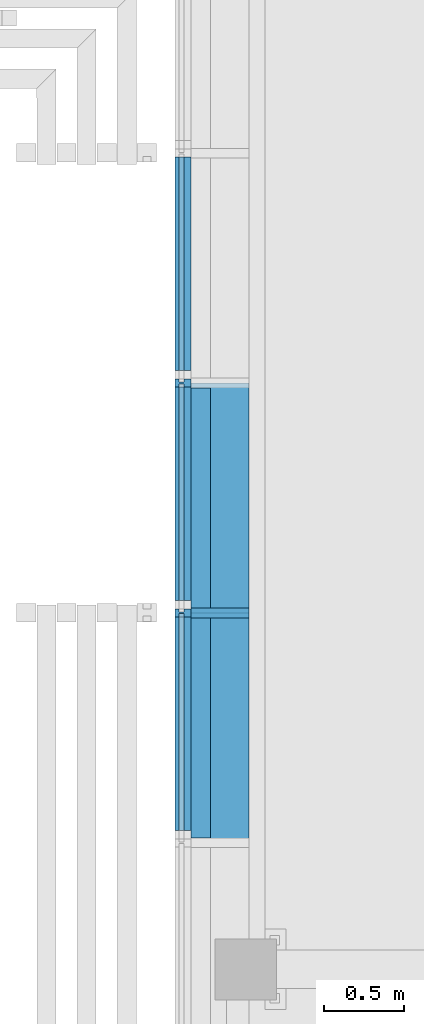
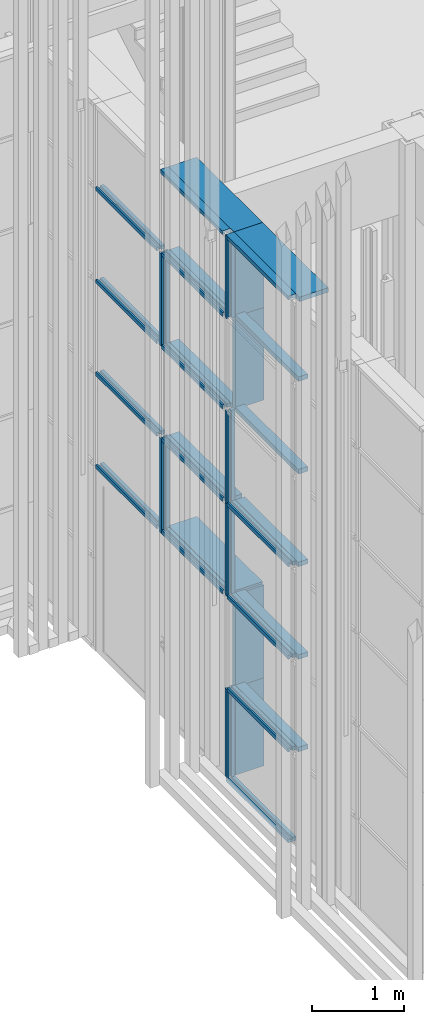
# One storey, part 20 of 260: 35 members, 2 elements without a shape of their own.
"""IFC2X3 building model written with IfcOpenShell, lengths in millimetres."""

from ifc_helpers import new_model, entity, si_unit, converted_unit, derived_unit, money_unit, direction, frame, origin_with_axes, place, context, subcontext, project, spatial, faceted_brep, source, transform, mapped, material, type_object, element, aggregate, save


model = new_model("IFC2X3")

# Units and contexts
model_context = context("Model", 3, precision=0.01, world=origin_with_axes(), true_north=direction((0.0, 1.0)))
body_context = subcontext(model_context, "Body", "Model", "MODEL_VIEW")
ifc_project = project(units=[si_unit("LENGTHUNIT", "METRE", prefix="MILLI"), si_unit("AREAUNIT", "SQUARE_METRE"), si_unit("VOLUMEUNIT", "CUBIC_METRE"), converted_unit("PLANEANGLEUNIT", "DEGREE", entity("IfcPlaneAngleMeasure", 0.0174532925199), si_unit("PLANEANGLEUNIT", "RADIAN"), dimensions=[0, 0, 0, 0, 0, 0, 0]), money_unit("EUR"), converted_unit("TIMEUNIT", "Year", entity("IfcTimeMeasure", 31556926.0), si_unit("TIMEUNIT", "SECOND"), dimensions=[0, 0, 1, 0, 0, 0, 0]), si_unit("MASSUNIT", "GRAM", prefix="KILO"), si_unit("THERMODYNAMICTEMPERATUREUNIT", "DEGREE_CELSIUS"), si_unit("LUMINOUSINTENSITYUNIT", "LUMEN"), si_unit("ENERGYUNIT", "JOULE", prefix="MEGA"), derived_unit("THERMALCONDUCTANCEUNIT", [(si_unit("POWERUNIT", "WATT"), 1), (si_unit("LENGTHUNIT", "METRE"), -1), (si_unit("THERMODYNAMICTEMPERATUREUNIT", "KELVIN"), -1)]), derived_unit("SPECIFICHEATCAPACITYUNIT", [(si_unit("ENERGYUNIT", "JOULE"), 1), (si_unit("MASSUNIT", "GRAM", prefix="KILO"), -1), (si_unit("THERMODYNAMICTEMPERATUREUNIT", "KELVIN"), -1)]), derived_unit("MASSDENSITYUNIT", [(si_unit("MASSUNIT", "GRAM", prefix="KILO"), 1), (si_unit("VOLUMEUNIT", "CUBIC_METRE"), -1)])], contexts=[model_context])

# Site, building, storey
site_placement = place(None, origin_with_axes())
site = spatial("IfcSite", under=ifc_project, at=site_placement, Name="Kolde pst 67a", CompositionType="ELEMENT")
building_placement = place(site_placement, origin_with_axes())
building = spatial("IfcBuilding", under=site, at=building_placement, Name="Riigigümnaasium", CompositionType="ELEMENT")
storey_placement = place(building_placement, origin_with_axes())
storey = spatial("IfcBuildingStorey", under=building, at=storey_placement, Name="1. korrus", CompositionType="ELEMENT", Elevation=0.0)

# Curtain wall, members
curtain_wall_type = type_object("IfcCurtainWallType", Name="Curtain Wall Type", PredefinedType="NOTDEFINED")
curtain_wall_1_placement = place(storey_placement, frame((47829.9854655, 8727.77020058, -0.000749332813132), z_axis=(0.0, 0.0, 1.0), x_axis=(1.0, 0.0, 0.0)))
curtain_wall_1 = element("IfcCurtainWall", 1, at=curtain_wall_1_placement, inside=storey, type_object=curtain_wall_type, Name="KLAASFASSAAD")
ifc_material_1 = material(Name="_METALL - alumiinium")
member_type_1 = type_object("IfcMemberType", Name="Mullion Frame 50 x 100", PredefinedType="MEMBER")
shared_shape_1 = source(origin_with_axes(), body_context, "Body", "Brep", [
    faceted_brep([(5.0, -16.5, 1230.00046362), (5.0, 16.5, 1230.00046362), (25.0, 16.5, 1230.00046362), (25.0, 40.0, 1230.00046362), (-25.0, 40.0, 1230.00046362), (-25.0, 16.5, 1230.00046362), (-5.0, 16.5, 1230.00046362), (-5.0, -16.5, 1230.00046362), (-25.0, -16.5, 1230.00046362), (-25.0, -60.0, 1230.00046362), (25.0, -60.0, 1230.00046362), (25.0, -16.5, 1230.00046362), (5.0, -16.5, 50.0), (5.0, 16.5, 50.0), (25.0, 16.5, 50.0), (25.0, 40.0, 50.0), (-25.0, 40.0, 50.0), (-25.0, 16.5, 50.0), (-5.0, 16.5, 50.0), (-5.0, -16.5, 50.0), (-25.0, -16.5, 50.0), (-25.0, -60.0, 50.0), (25.0, -60.0, 50.0), (25.0, -16.5, 50.0)], [[[0, 1, 2, 3, 4, 5, 6, 7, 8, 9, 10, 11]], [[0, 12, 13, 1]], [[1, 13, 14, 2]], [[14, 15, 3, 2]], [[4, 3, 15, 16]], [[17, 5, 4, 16]], [[5, 17, 18, 6]], [[7, 6, 18, 19]], [[8, 7, 19, 20]], [[8, 20, 21, 9]], [[10, 9, 21, 22]], [[11, 10, 22, 23]], [[11, 23, 12, 0]], [[13, 12, 23, 22, 21, 20, 19, 18, 17, 16, 15, 14]]]),
])
member_1_placement = place(curtain_wall_1_placement, frame((-9.97197702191e-06, 10938.7910576, 0.0), z_axis=(0.0, 8.42879940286e-09, 1.0), x_axis=(9.11613907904e-10, -1.0, 8.42879940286e-09)))
member_1 = element("IfcMember", 2, at=member_1_placement, type_object=member_type_1, material=ifc_material_1, Name="RF RAAM VERT-954", ObjectType="MEMBER", context=body_context, shape_type="MappedRepresentation", body=[
    mapped(shared_shape_1, transform((0.0, 0.0, 0.0), x_axis=(-1.0, 0.0, 8.42879940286e-09), y_axis=(0.0, -1.0, 0.0), z_axis=(8.42879940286e-09, 0.0, 1.0))),
])
shared_shape_2 = source(origin_with_axes(), body_context, "Body", "Brep", [
    faceted_brep([(5.0, -16.5, 1230.0), (5.0, 16.5, 1230.0), (25.0, 16.5, 1230.0), (25.0, 40.0, 1230.0), (-25.0, 40.0, 1230.0), (-25.0, 16.5, 1230.0), (-5.0, 16.5, 1230.0), (-5.0, -16.5, 1230.0), (-25.0, -16.5, 1230.0), (-25.0, -60.0, 1230.0), (25.0, -60.0, 1230.0), (25.0, -16.5, 1230.0), (5.0, -16.5, 0.0), (5.0, 16.5, 0.0), (25.0, 16.5, 0.0), (25.0, 40.0, 0.0), (-25.0, 40.0, 0.0), (-25.0, 16.5, 0.0), (-5.0, 16.5, 0.0), (-5.0, -16.5, 0.0), (-25.0, -16.5, 0.0), (-25.0, -60.0, 0.0), (25.0, -60.0, 0.0), (25.0, -16.5, 0.0)], [[[0, 1, 2, 3, 4, 5, 6, 7, 8, 9, 10, 11]], [[0, 12, 13, 1]], [[1, 13, 14, 2]], [[14, 15, 3, 2]], [[3, 15, 16, 4]], [[17, 5, 4, 16]], [[5, 17, 18, 6]], [[7, 6, 18, 19]], [[8, 7, 19, 20]], [[8, 20, 21, 9]], [[9, 21, 22, 10]], [[11, 10, 22, 23]], [[11, 23, 12, 0]], [[13, 12, 23, 22, 21, 20, 19, 18, 17, 16, 15, 14]]]),
])
member_2_placement = place(curtain_wall_1_placement, frame((-1.12755955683e-05, 12368.7994636, 4920.00074933), z_axis=(0.0, 0.0, 1.0), x_axis=(9.1161639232e-10, -1.0, 0.0)))
member_2 = element("IfcMember", 3, at=member_2_placement, type_object=member_type_1, material=ifc_material_1, Name="RF RAAM VERT-874", ObjectType="MEMBER", context=body_context, shape_type="MappedRepresentation", body=[
    mapped(shared_shape_2, transform((0.0, 0.0, 0.0), x_axis=(-1.0, 0.0, 0.0), y_axis=(0.0, -1.0, 0.0), z_axis=(0.0, 0.0, 1.0))),
])
member_3_placement = place(curtain_wall_1_placement, frame((-9.97197702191e-06, 10938.791068, 2460.00074933), z_axis=(0.0, 0.0, 1.0), x_axis=(9.11613907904e-10, -1.0, 0.0)))
member_3 = element("IfcMember", 4, at=member_3_placement, type_object=member_type_1, material=ifc_material_1, Name="RF RAAM VERT-951", ObjectType="MEMBER", context=body_context, shape_type="MappedRepresentation", body=[
    mapped(shared_shape_2, transform((0.0, 0.0, 0.0), x_axis=(-1.0, 0.0, 0.0), y_axis=(0.0, -1.0, 0.0), z_axis=(0.0, 0.0, 1.0))),
])
member_4_placement = place(curtain_wall_1_placement, frame((-9.97197702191e-06, 10938.791068, 3690.00074933), z_axis=(0.0, 0.0, 1.0), x_axis=(9.11613907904e-10, -1.0, 0.0)))
member_4 = element("IfcMember", 5, at=member_4_placement, type_object=member_type_1, material=ifc_material_1, Name="RF RAAM VERT-952", ObjectType="MEMBER", context=body_context, shape_type="MappedRepresentation", body=[
    mapped(shared_shape_2, transform((0.0, 0.0, 0.0), x_axis=(-1.0, 0.0, 0.0), y_axis=(0.0, -1.0, 0.0), z_axis=(0.0, 0.0, 1.0))),
])
shared_shape_3 = source(origin_with_axes(), body_context, "Body", "Brep", [
    faceted_brep([(5.0, -16.5, 1230.0), (5.0, 16.5, 1230.0), (25.0, 16.5, 1230.0), (25.0, 40.0, 1230.0), (-25.0, 40.0, 1230.0), (-25.0, 16.5, 1230.0), (-5.0, 16.5, 1230.0), (-5.0, -16.5, 1230.0), (-25.0, -16.5, 1230.0), (-25.0, -60.0, 1230.0), (25.0, -60.0, 1230.0), (25.0, -16.5, 1230.0), (5.0, -16.5, -25.0), (5.0, 16.5, -25.0), (25.0, 16.5, -25.0), (25.0, 40.0, -25.0), (-25.0, 40.0, -25.0), (-25.0, 16.5, -25.0), (-5.0, 16.5, -25.0), (-5.0, -16.5, -25.0), (-25.0, -16.5, -25.0), (-25.0, -60.0, -25.0), (25.0, -60.0, -25.0), (25.0, -16.5, -25.0)], [[[0, 1, 2, 3, 4, 5, 6, 7, 8, 9, 10, 11]], [[0, 12, 13, 1]], [[1, 13, 14, 2]], [[14, 15, 3, 2]], [[3, 15, 16, 4]], [[17, 5, 4, 16]], [[5, 17, 18, 6]], [[7, 6, 18, 19]], [[8, 7, 19, 20]], [[8, 20, 21, 9]], [[9, 21, 22, 10]], [[11, 10, 22, 23]], [[11, 23, 12, 0]], [[13, 12, 23, 22, 21, 20, 19, 18, 17, 16, 15, 14]]]),
])
member_5_placement = place(curtain_wall_1_placement, frame((-1.12755955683e-05, 12368.7994636, 2460.00074933), z_axis=(0.0, 0.0, 1.0), x_axis=(9.1161639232e-10, -1.0, 0.0)))
member_5 = element("IfcMember", 6, at=member_5_placement, type_object=member_type_1, material=ifc_material_1, Name="RF RAAM VERT-947", ObjectType="MEMBER", context=body_context, shape_type="MappedRepresentation", body=[
    mapped(shared_shape_3, transform((0.0, 0.0, 0.0), x_axis=(-1.0, 0.0, 0.0), y_axis=(0.0, -1.0, 0.0), z_axis=(0.0, 0.0, 1.0))),
])
member_type_2 = type_object("IfcMemberType", Name="Transom Frame 50 x 100", PredefinedType="MEMBER")
shared_shape_4 = source(origin_with_axes(), body_context, "Body", "Brep", [
    faceted_brep([(5.0, -16.5, 1327.75198335), (5.0, 16.5, 1327.75198335), (25.0, 16.5, 1327.75198335), (25.0, 40.0, 1327.75198335), (-25.0, 40.0, 1327.75198335), (-25.0, 16.5, 1327.75198335), (-5.0, 16.5, 1327.75198335), (-5.0, -16.5, 1327.75198335), (-25.0, -16.5, 1327.75198335), (-25.0, -60.0, 1327.75198335), (25.0, -60.0, 1327.75198335), (25.0, -16.5, 1327.75198335), (5.0, -16.5, 0.0), (5.0, 16.5, 0.0), (25.0, 16.5, 0.0), (25.0, 40.0, 0.0), (-25.0, 40.0, 0.0), (-25.0, 16.5, 0.0), (-5.0, 16.5, 0.0), (-5.0, -16.5, 0.0), (-25.0, -16.5, 0.0), (-25.0, -60.0, 0.0), (25.0, -60.0, 0.0), (25.0, -16.5, 0.0)], [[[0, 1, 2, 3, 4, 5, 6, 7, 8, 9, 10, 11]], [[0, 12, 13, 1]], [[1, 13, 14, 2]], [[14, 15, 3, 2]], [[3, 15, 16, 4]], [[17, 5, 4, 16]], [[5, 17, 18, 6]], [[7, 6, 18, 19]], [[8, 7, 19, 20]], [[8, 20, 21, 9]], [[9, 21, 22, 10]], [[11, 10, 22, 23]], [[11, 23, 12, 0]], [[13, 12, 23, 22, 21, 20, 19, 18, 17, 16, 15, 14]]]),
])
member_6_placement = place(curtain_wall_1_placement, frame((-1.13460103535e-05, 12446.0390847, 4920.00074933), z_axis=(-9.11615393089e-10, 1.0, 0.0), x_axis=(0.0, 0.0, 1.0)))
member_6 = element("IfcMember", 7, at=member_6_placement, type_object=member_type_2, material=ifc_material_1, Name="RF RAAM HOR-839", ObjectType="MEMBER", context=body_context, shape_type="MappedRepresentation", body=[
    mapped(shared_shape_4, transform((0.0, 0.0, 0.0), x_axis=(-1.0, 0.0, 0.0), y_axis=(0.0, -1.0, 9.11615270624e-10), z_axis=(0.0, 9.11615270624e-10, 1.0))),
])
member_7_placement = place(curtain_wall_1_placement, frame((-1.13460103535e-05, 12446.0390847, 6150.00074933), z_axis=(-9.11615407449e-10, 1.0, 0.0), x_axis=(0.0, 0.0, 1.0)))
member_7 = element("IfcMember", 8, at=member_7_placement, type_object=member_type_2, material=ifc_material_1, Name="RF RAAM HOR-840", ObjectType="MEMBER", context=body_context, shape_type="MappedRepresentation", body=[
    mapped(shared_shape_4, transform((0.0, 0.0, 0.0), x_axis=(-1.0, 0.0, 0.0), y_axis=(0.0, -1.0, 9.11615284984e-10), z_axis=(0.0, 9.11615284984e-10, 1.0))),
])
member_8_placement = place(curtain_wall_1_placement, frame((-1.13460103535e-05, 12446.0390847, 2460.00074933), z_axis=(-9.11615393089e-10, 1.0, 0.0), x_axis=(0.0, 0.0, 1.0)))
member_8 = element("IfcMember", 9, at=member_8_placement, type_object=member_type_2, material=ifc_material_1, Name="RF RAAM HOR-914", ObjectType="MEMBER", context=body_context, shape_type="MappedRepresentation", body=[
    mapped(shared_shape_4, transform((0.0, 0.0, 0.0), x_axis=(-1.0, 0.0, 0.0), y_axis=(0.0, -1.0, 9.11615270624e-10), z_axis=(0.0, 9.11615270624e-10, 1.0))),
])
member_9_placement = place(curtain_wall_1_placement, frame((-1.13460103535e-05, 12446.0390847, 3690.00074933), z_axis=(-9.11615393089e-10, 1.0, 0.0), x_axis=(0.0, 0.0, 1.0)))
member_9 = element("IfcMember", 10, at=member_9_placement, type_object=member_type_2, material=ifc_material_1, Name="RF RAAM HOR-915", ObjectType="MEMBER", context=body_context, shape_type="MappedRepresentation", body=[
    mapped(shared_shape_4, transform((0.0, 0.0, 0.0), x_axis=(-1.0, 0.0, 0.0), y_axis=(0.0, -1.0, 9.11615270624e-10), z_axis=(0.0, 9.11615270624e-10, 1.0))),
])
member_10_placement = place(curtain_wall_1_placement, frame((-8.73878747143e-06, 9586.03908467, 1230.00074933), z_axis=(-9.11615407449e-10, 1.0, 0.0), x_axis=(0.0, 0.0, 1.0)))
member_10 = element("IfcMember", 11, at=member_10_placement, type_object=member_type_2, material=ifc_material_1, Name="RF RAAM HOR-918", ObjectType="MEMBER", context=body_context, shape_type="MappedRepresentation", body=[
    mapped(shared_shape_4, transform((0.0, 0.0, 0.0), x_axis=(-1.0, 0.0, 0.0), y_axis=(0.0, -1.0, 9.11615284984e-10), z_axis=(0.0, 9.11615284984e-10, 1.0))),
])
member_11_placement = place(curtain_wall_1_placement, frame((-8.73878747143e-06, 9586.03908467, 2460.00074933), z_axis=(-9.11615407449e-10, 1.0, 0.0), x_axis=(0.0, 0.0, 1.0)))
member_11 = element("IfcMember", 12, at=member_11_placement, type_object=member_type_2, material=ifc_material_1, Name="RF RAAM HOR-919", ObjectType="MEMBER", context=body_context, shape_type="MappedRepresentation", body=[
    mapped(shared_shape_4, transform((0.0, 0.0, 0.0), x_axis=(-1.0, 0.0, 0.0), y_axis=(0.0, -1.0, 9.11615284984e-10), z_axis=(0.0, 9.11615284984e-10, 1.0))),
])
member_12_placement = place(curtain_wall_1_placement, frame((-8.73878747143e-06, 9586.03908467, 3690.00074933), z_axis=(-9.11615407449e-10, 1.0, 0.0), x_axis=(0.0, 0.0, 1.0)))
member_12 = element("IfcMember", 13, at=member_12_placement, type_object=member_type_2, material=ifc_material_1, Name="RF RAAM HOR-920", ObjectType="MEMBER", context=body_context, shape_type="MappedRepresentation", body=[
    mapped(shared_shape_4, transform((0.0, 0.0, 0.0), x_axis=(-1.0, 0.0, 0.0), y_axis=(0.0, -1.0, 9.11615284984e-10), z_axis=(0.0, 9.11615284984e-10, 1.0))),
])
shared_shape_5 = source(origin_with_axes(), body_context, "Body", "Brep", [
    faceted_brep([(5.0, -16.5, 1327.76037897), (5.0, 16.5, 1327.76037897), (25.0, 16.5, 1327.76037897), (25.0, 40.0, 1327.76037897), (-25.0, 40.0, 1327.76037897), (-25.0, 16.5, 1327.76037897), (-5.0, 16.5, 1327.76037897), (-5.0, -16.5, 1327.76037897), (-25.0, -16.5, 1327.76037897), (-25.0, -60.0, 1327.76037897), (25.0, -60.0, 1327.76037897), (25.0, -16.5, 1327.76037897), (5.0, -16.5, 0.0), (5.0, 16.5, 0.0), (25.0, 16.5, 0.0), (25.0, 40.0, 0.0), (-25.0, 40.0, 0.0), (-25.0, 16.5, 0.0), (-5.0, 16.5, 0.0), (-5.0, -16.5, 0.0), (-25.0, -16.5, 0.0), (-25.0, -60.0, 0.0), (25.0, -60.0, 0.0), (25.0, -16.5, 0.0)], [[[0, 1, 2, 3, 4, 5, 6, 7, 8, 9, 10, 11]], [[0, 12, 13, 1]], [[1, 13, 14, 2]], [[14, 15, 3, 2]], [[3, 15, 16, 4]], [[17, 5, 4, 16]], [[5, 17, 18, 6]], [[7, 6, 18, 19]], [[8, 7, 19, 20]], [[8, 20, 21, 9]], [[9, 21, 22, 10]], [[11, 10, 22, 23]], [[11, 23, 12, 0]], [[13, 12, 23, 22, 21, 20, 19, 18, 17, 16, 15, 14]]]),
])
member_13_placement = place(curtain_wall_1_placement, frame((-1.00423989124e-05, 11016.0390847, 4920.00074933), z_axis=(-9.11615002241e-10, 1.0, 0.0), x_axis=(0.0, 0.0, 1.0)))
member_13 = element("IfcMember", 14, at=member_13_placement, type_object=member_type_2, material=ifc_material_1, Name="RF RAAM HOR-835", ObjectType="MEMBER", context=body_context, shape_type="MappedRepresentation", body=[
    mapped(shared_shape_5, transform((0.0, 0.0, 0.0), x_axis=(-1.0, 0.0, 0.0), y_axis=(0.0, -1.0, 9.11614879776e-10), z_axis=(0.0, 9.11614879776e-10, 1.0))),
])
member_14_placement = place(curtain_wall_1_placement, frame((-1.00423989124e-05, 11016.0390847, 6150.00074933), z_axis=(-9.11615002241e-10, 1.0, 0.0), x_axis=(0.0, 0.0, 1.0)))
member_14 = element("IfcMember", 15, at=member_14_placement, type_object=member_type_2, material=ifc_material_1, Name="RF RAAM HOR-836", ObjectType="MEMBER", context=body_context, shape_type="MappedRepresentation", body=[
    mapped(shared_shape_5, transform((0.0, 0.0, 0.0), x_axis=(-1.0, 0.0, 0.0), y_axis=(0.0, -1.0, 9.11614879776e-10), z_axis=(0.0, 9.11614879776e-10, 1.0))),
])
member_15_placement = place(curtain_wall_1_placement, frame((-1.00423989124e-05, 11016.0390847, 2460.00074933), z_axis=(-9.11615002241e-10, 1.0, 0.0), x_axis=(0.0, 0.0, 1.0)))
member_15 = element("IfcMember", 16, at=member_15_placement, type_object=member_type_2, material=ifc_material_1, Name="RF RAAM HOR-916", ObjectType="MEMBER", context=body_context, shape_type="MappedRepresentation", body=[
    mapped(shared_shape_5, transform((0.0, 0.0, 0.0), x_axis=(-1.0, 0.0, 0.0), y_axis=(0.0, -1.0, 9.11614879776e-10), z_axis=(0.0, 9.11614879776e-10, 1.0))),
])
member_16_placement = place(curtain_wall_1_placement, frame((-1.00423989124e-05, 11016.0390847, 3690.00074933), z_axis=(-9.11615002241e-10, 1.0, 0.0), x_axis=(0.0, 0.0, 1.0)))
member_16 = element("IfcMember", 17, at=member_16_placement, type_object=member_type_2, material=ifc_material_1, Name="RF RAAM HOR-917", ObjectType="MEMBER", context=body_context, shape_type="MappedRepresentation", body=[
    mapped(shared_shape_5, transform((0.0, 0.0, 0.0), x_axis=(-1.0, 0.0, 0.0), y_axis=(0.0, -1.0, 9.11614879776e-10), z_axis=(0.0, 9.11614879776e-10, 1.0))),
])
member_type_3 = type_object("IfcMemberType", Name="Boundary Frame 50 x 100", PredefinedType="MEMBER")
shared_shape_6 = source(origin_with_axes(), body_context, "Body", "Brep", [
    faceted_brep([(-30.0, -16.5, 1352.75197298), (-50.0, -16.5, 1352.75197298), (-50.0, -60.0, 1352.75197298), (0.0, -60.0, 1352.75197298), (0.0, 40.0, 1352.75197298), (-50.0, 40.0, 1352.75197298), (-50.0, 16.5, 1352.75197298), (-30.0, 16.5, 1352.75197298), (-30.0, -16.5, 0.0), (-50.0, -16.5, 0.0), (-50.0, -60.0, 0.0), (0.0, -60.0, 0.0), (0.0, 40.0, 0.0), (-50.0, 40.0, 0.0), (-50.0, 16.5, 0.0), (-30.0, 16.5, 0.0)], [[[0, 1, 2, 3, 4, 5, 6, 7]], [[0, 8, 9, 1]], [[9, 10, 2, 1]], [[10, 11, 3, 2]], [[11, 12, 4, 3]], [[12, 13, 5, 4]], [[6, 5, 13, 14]], [[14, 15, 7, 6]], [[7, 15, 8, 0]], [[8, 15, 14, 13, 12, 11, 10, 9]]]),
])
member_17_placement = place(curtain_wall_1_placement, frame((-8.73878747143e-06, 9586.03908467, 0.0), z_axis=(-9.11615414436e-10, 1.0, 0.0), x_axis=(0.0, 0.0, 1.0)))
member_17 = element("IfcMember", 18, at=member_17_placement, type_object=member_type_3, material=ifc_material_1, Name="RF RAAM SERV-561", ObjectType="MEMBER", context=body_context, shape_type="MappedRepresentation", body=[
    mapped(shared_shape_6, transform((0.0, 0.0, 0.0), x_axis=(-1.0, 0.0, 0.0), y_axis=(0.0, -1.0, 9.11615291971e-10), z_axis=(0.0, 9.11615291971e-10, 1.0))),
])
member_18_placement = place(curtain_wall_1_placement, frame((-9.97197702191e-06, 10938.7910577, 7259.99994321), z_axis=(9.11615414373e-10, -1.0, 0.0), x_axis=(0.0, 0.0, -1.0)))
member_18 = element("IfcMember", 19, at=member_18_placement, type_object=member_type_3, material=ifc_material_1, Name="RF RAAM SERV-574", ObjectType="MEMBER", context=body_context, shape_type="MappedRepresentation", body=[
    mapped(shared_shape_6, transform((0.0, 0.0, 0.0), x_axis=(-1.0, 0.0, 0.0), y_axis=(0.0, -1.0, -9.11615414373e-10), z_axis=(0.0, -9.11615414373e-10, 1.0))),
])
shared_shape_7 = source(origin_with_axes(), body_context, "Body", "Brep", [
    faceted_brep([(5.0, -16.5, 1099.99900713), (5.0, 16.5, 1099.99900713), (25.0, 16.5, 1099.99900713), (25.0, 40.0, 1099.99900713), (-25.0, 40.0, 1099.99900713), (-25.0, 16.5, 1099.99900713), (-5.0, 16.5, 1099.99900713), (-5.0, -16.5, 1099.99900713), (-25.0, -16.5, 1099.99900713), (-25.0, -60.0, 1099.99900713), (25.0, -60.0, 1099.99900713), (25.0, -16.5, 1099.99900713), (5.0, -16.5, -4.55870452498e-07), (5.0, 16.5, -4.55870452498e-07), (25.0, 16.5, -4.55870452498e-07), (25.0, 40.0, -4.55870452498e-07), (-25.0, 40.0, -4.55870452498e-07), (-25.0, 16.5, -4.55870452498e-07), (-5.0, 16.5, -4.55870452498e-07), (-5.0, -16.5, -4.55870452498e-07), (-25.0, -16.5, -4.55870452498e-07), (-25.0, -60.0, -4.55870452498e-07), (25.0, -60.0, -4.55870452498e-07), (25.0, -16.5, -4.55870452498e-07)], [[[0, 1, 2, 3, 4, 5, 6, 7, 8, 9, 10, 11]], [[0, 12, 13, 1]], [[1, 13, 14, 2]], [[14, 15, 3, 2]], [[3, 15, 16, 4]], [[17, 5, 4, 16]], [[5, 17, 18, 6]], [[7, 6, 18, 19]], [[8, 7, 19, 20]], [[8, 20, 21, 9]], [[9, 21, 22, 10]], [[11, 10, 22, 23]], [[11, 23, 12, 0]], [[13, 12, 23, 22, 21, 20, 19, 18, 17, 16, 15, 14]]]),
])
member_19_placement = place(curtain_wall_1_placement, frame((-9.97197702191e-06, 10938.791068, 6150.00074933), z_axis=(0.0, -9.25663829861e-09, 1.0), x_axis=(9.11613907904e-10, -1.0, -9.25663829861e-09)))
member_19 = element("IfcMember", 20, at=member_19_placement, type_object=member_type_1, material=ifc_material_1, Name="RF RAAM VERT-051", ObjectType="MEMBER", context=body_context, shape_type="MappedRepresentation", body=[
    mapped(shared_shape_7, transform((0.0, 0.0, 0.0), x_axis=(-1.0, 0.0, -9.25663829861e-09), y_axis=(0.0, -1.0, 0.0), z_axis=(-9.25663829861e-09, 0.0, 1.0))),
])
shared_shape_8 = source(origin_with_axes(), body_context, "Body", "Brep", [
    faceted_brep([(-30.0, -16.5, 1352.76039116), (-50.0, -16.5, 1352.76039116), (-50.0, -60.0, 1352.76039116), (0.0, -60.0, 1352.76039116), (0.0, 40.0, 1352.76039116), (-50.0, 40.0, 1352.76039116), (-50.0, 16.5, 1352.76039116), (-30.0, 16.5, 1352.76039116), (-30.0, -16.5, 0.0), (-50.0, -16.5, 0.0), (-50.0, -60.0, 0.0), (0.0, -60.0, 0.0), (0.0, 40.0, 0.0), (-50.0, 40.0, 0.0), (-50.0, 16.5, 0.0), (-30.0, 16.5, 0.0)], [[[0, 1, 2, 3, 4, 5, 6, 7]], [[0, 8, 9, 1]], [[9, 10, 2, 1]], [[10, 11, 3, 2]], [[11, 12, 4, 3]], [[12, 13, 5, 4]], [[6, 5, 13, 14]], [[14, 15, 7, 6]], [[7, 15, 8, 0]], [[8, 15, 14, 13, 12, 11, 10, 9]]]),
])
member_20_placement = place(curtain_wall_1_placement, frame((-1.12755955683e-05, 12368.7994851, 7259.99994321), z_axis=(9.11614987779e-10, -1.0, 0.0), x_axis=(0.0, 0.0, -1.0)))
member_20 = element("IfcMember", 21, at=member_20_placement, type_object=member_type_3, material=ifc_material_1, Name="RF RAAM SERV-573", ObjectType="MEMBER", context=body_context, shape_type="MappedRepresentation", body=[
    mapped(shared_shape_8, transform((0.0, 0.0, 0.0), x_axis=(-1.0, 0.0, 0.0), y_axis=(0.0, -1.0, -9.11614987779e-10), z_axis=(0.0, -9.11614987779e-10, 1.0))),
])
aggregate(curtain_wall_1, [member_2, member_13, member_14, member_6, member_7, member_8, member_9, member_5, member_15, member_16, member_10, member_11, member_3, member_12, member_4, member_1, member_17, member_19, member_18, member_20])

curtain_wall_2_placement = place(storey_placement, frame((47889.9854796, 7778.28071079, -0.000681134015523), z_axis=(0.0, 0.0, 1.0), x_axis=(1.0, 0.0, 0.0)))
curtain_wall_2 = element("IfcCurtainWall", 22, at=curtain_wall_2_placement, inside=storey, type_object=curtain_wall_type, Name="Klaasfassaadi puitkarkass")
ifc_material_2 = material(Name="_KANDETARIND - liimpuit vastavalt EK osale")
member_type_4 = type_object("IfcMemberType", Name="Transom Frame 60 x 120", PredefinedType="MEMBER")
shared_shape_9 = source(origin_with_axes(), body_context, "Body", "Brep", [
    faceted_brep([(-30.0, 0.0, 30.0), (-30.0, -120.0, 30.0), (-30.0, -120.0, 1400.0), (-30.0, 0.0, 1400.0), (30.0, 0.0, 30.0), (30.0, -120.0, 30.0), (30.0, -120.0, 1400.0), (30.0, 0.0, 1400.0)], [[[0, 1, 2, 3]], [[1, 0, 4, 5]], [[1, 5, 6, 2]], [[2, 6, 7, 3]], [[4, 0, 3, 7]], [[5, 4, 7, 6]]]),
])
member_21_placement = place(curtain_wall_2_placement, frame((-1.12396705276e-05, 10458.2806351, 1230.00068113), z_axis=(-1.07471824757e-09, 1.0, 0.0), x_axis=(0.0, 0.0, 1.0)))
member_21 = element("IfcMember", 23, at=member_21_placement, type_object=member_type_4, material=ifc_material_2, Name="RF RAAM HOR-249", ObjectType="MEMBER", context=body_context, shape_type="MappedRepresentation", body=[
    mapped(shared_shape_9, transform((0.0, 0.0, 0.0), x_axis=(-1.0, 0.0, 0.0), y_axis=(0.0, -1.0, 1.07471812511e-09), z_axis=(0.0, 1.07471812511e-09, 1.0))),
])
member_22_placement = place(curtain_wall_2_placement, frame((-1.12396705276e-05, 10458.2806351, 2460.00068113), z_axis=(-1.07471824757e-09, 1.0, 0.0), x_axis=(0.0, 0.0, 1.0)))
member_22 = element("IfcMember", 24, at=member_22_placement, type_object=member_type_4, material=ifc_material_2, Name="RF RAAM HOR-249", ObjectType="MEMBER", context=body_context, shape_type="MappedRepresentation", body=[
    mapped(shared_shape_9, transform((0.0, 0.0, 0.0), x_axis=(-1.0, 0.0, 0.0), y_axis=(0.0, -1.0, 1.07471812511e-09), z_axis=(0.0, 1.07471812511e-09, 1.0))),
])
member_23_placement = place(curtain_wall_2_placement, frame((-1.12396705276e-05, 10458.2806351, 3690.00068113), z_axis=(-1.07471824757e-09, 1.0, 0.0), x_axis=(0.0, 0.0, 1.0)))
member_23 = element("IfcMember", 25, at=member_23_placement, type_object=member_type_4, material=ifc_material_2, Name="RF RAAM HOR-249", ObjectType="MEMBER", context=body_context, shape_type="MappedRepresentation", body=[
    mapped(shared_shape_9, transform((0.0, 0.0, 0.0), x_axis=(-1.0, 0.0, 0.0), y_axis=(0.0, -1.0, 1.07471812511e-09), z_axis=(0.0, 1.07471812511e-09, 1.0))),
])
member_24_placement = place(curtain_wall_2_placement, frame((-1.27765176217e-05, 11888.2806351, 3690.00068113), z_axis=(-1.07471327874e-09, 1.0, 0.0), x_axis=(0.0, 0.0, 1.0)))
member_24 = element("IfcMember", 26, at=member_24_placement, type_object=member_type_4, material=ifc_material_2, Name="RF RAAM HOR-249", ObjectType="MEMBER", context=body_context, shape_type="MappedRepresentation", body=[
    mapped(shared_shape_9, transform((0.0, 0.0, 0.0), x_axis=(-1.0, 0.0, 0.0), y_axis=(0.0, -1.0, 1.07471315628e-09), z_axis=(0.0, 1.07471315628e-09, 1.0))),
])
member_25_placement = place(curtain_wall_2_placement, frame((-1.12396705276e-05, 10458.2806351, 4920.00068113), z_axis=(-1.07471824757e-09, 1.0, 0.0), x_axis=(0.0, 0.0, 1.0)))
member_25 = element("IfcMember", 27, at=member_25_placement, type_object=member_type_4, material=ifc_material_2, Name="RF RAAM HOR-249", ObjectType="MEMBER", context=body_context, shape_type="MappedRepresentation", body=[
    mapped(shared_shape_9, transform((0.0, 0.0, 0.0), x_axis=(-1.0, 0.0, 0.0), y_axis=(0.0, -1.0, 1.07471812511e-09), z_axis=(0.0, 1.07471812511e-09, 1.0))),
])
member_26_placement = place(curtain_wall_2_placement, frame((-1.27765176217e-05, 11888.2806351, 4920.00068113), z_axis=(-1.07471327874e-09, 1.0, 0.0), x_axis=(0.0, 0.0, 1.0)))
member_26 = element("IfcMember", 28, at=member_26_placement, type_object=member_type_4, material=ifc_material_2, Name="RF RAAM HOR-249", ObjectType="MEMBER", context=body_context, shape_type="MappedRepresentation", body=[
    mapped(shared_shape_9, transform((0.0, 0.0, 0.0), x_axis=(-1.0, 0.0, 0.0), y_axis=(0.0, -1.0, 1.07471315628e-09), z_axis=(0.0, 1.07471315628e-09, 1.0))),
])
member_27_placement = place(curtain_wall_2_placement, frame((-1.12396705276e-05, 10458.2806351, 6150.00068113), z_axis=(-1.07471824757e-09, 1.0, 0.0), x_axis=(0.0, 0.0, 1.0)))
member_27 = element("IfcMember", 29, at=member_27_placement, type_object=member_type_4, material=ifc_material_2, Name="RF RAAM HOR-249", ObjectType="MEMBER", context=body_context, shape_type="MappedRepresentation", body=[
    mapped(shared_shape_9, transform((0.0, 0.0, 0.0), x_axis=(-1.0, 0.0, 0.0), y_axis=(0.0, -1.0, 1.07471812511e-09), z_axis=(0.0, 1.07471812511e-09, 1.0))),
])
member_28_placement = place(curtain_wall_2_placement, frame((-1.27765176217e-05, 11888.2806351, 6150.00068113), z_axis=(-1.07471327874e-09, 1.0, 0.0), x_axis=(0.0, 0.0, 1.0)))
member_28 = element("IfcMember", 30, at=member_28_placement, type_object=member_type_4, material=ifc_material_2, Name="RF RAAM HOR-249", ObjectType="MEMBER", context=body_context, shape_type="MappedRepresentation", body=[
    mapped(shared_shape_9, transform((0.0, 0.0, 0.0), x_axis=(-1.0, 0.0, 0.0), y_axis=(0.0, -1.0, 1.07471315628e-09), z_axis=(0.0, 1.07471315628e-09, 1.0))),
])
member_type_5 = type_object("IfcMemberType", Name="Mullion Frame 60 x 360", PredefinedType="MEMBER")
shared_shape_10 = source(origin_with_axes(), body_context, "Body", "Brep", [
    faceted_brep([(-30.0, 0.0, 60.0), (-30.0, -360.0, 60.0), (-30.0, -360.0, 1230.0002536), (-30.0, 0.0, 1230.0002536), (30.0, 0.0, 60.0), (30.0, -360.0, 60.0), (30.0, -360.0, 1230.0002536), (30.0, 0.0, 1230.0002536)], [[[0, 1, 2, 3]], [[1, 0, 4, 5]], [[1, 5, 6, 2]], [[2, 6, 7, 3]], [[4, 0, 3, 7]], [[5, 4, 7, 6]]]),
])
member_29_placement = place(curtain_wall_2_placement, frame((-1.27765176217e-05, 11888.2806351, 0.0), z_axis=(0.0, 0.0, 1.0), x_axis=(1.07471576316e-09, -1.0, 0.0)))
member_29 = element("IfcMember", 31, at=member_29_placement, type_object=member_type_5, material=ifc_material_2, Name="RF RAAM VERT-457", ObjectType="MEMBER", context=body_context, shape_type="MappedRepresentation", body=[
    mapped(shared_shape_10, transform((0.0, 0.0, 0.0), x_axis=(-1.0, 0.0, 0.0), y_axis=(0.0, -1.0, 0.0), z_axis=(0.0, 0.0, 1.0))),
])
shared_shape_11 = source(origin_with_axes(), body_context, "Body", "Brep", [
    faceted_brep([(-30.0, -360.0, 0.0), (-30.0, -360.0, 1230.0), (-30.0, 0.0, 1230.0), (-30.0, 0.0, 0.0), (30.0, -360.0, 0.0), (30.0, -360.0, 1230.0), (30.0, 0.0, 1230.0), (30.0, 0.0, 0.0)], [[[0, 1, 2, 3]], [[4, 5, 1, 0]], [[1, 5, 6, 2]], [[3, 2, 6, 7]], [[0, 3, 7, 4]], [[7, 6, 5, 4]]]),
])
member_30_placement = place(curtain_wall_2_placement, frame((-1.27765176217e-05, 11888.2806351, 4920.00068113), z_axis=(0.0, 0.0, 1.0), x_axis=(1.07471576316e-09, -1.0, 0.0)))
member_30 = element("IfcMember", 32, at=member_30_placement, type_object=member_type_5, material=ifc_material_2, Name="RF RAAM VERT-457", ObjectType="MEMBER", context=body_context, shape_type="MappedRepresentation", body=[
    mapped(shared_shape_11, transform((0.0, 0.0, 0.0), x_axis=(-1.0, 0.0, 0.0), y_axis=(0.0, -1.0, 0.0), z_axis=(0.0, 0.0, 1.0))),
])
shared_shape_12 = source(origin_with_axes(), body_context, "Body", "Brep", [
    faceted_brep([(30.0, 0.0, 1200.0), (30.0, 0.0, 0.0), (-30.0, 0.0, 0.0), (-30.0, 0.0, 1230.0), (0.0, 0.0, 1230.0), (0.0, 0.0, 1200.0), (30.0, -360.0, 1200.0), (30.0, -360.0, 0.0), (-30.0, -360.0, 0.0), (-30.0, -360.0, 1230.0), (0.0, -360.0, 1230.0), (0.0, -360.0, 1200.0)], [[[0, 1, 2, 3, 4, 5]], [[6, 7, 1, 0]], [[7, 8, 2, 1]], [[2, 8, 9, 3]], [[4, 3, 9, 10]], [[10, 11, 5, 4]], [[5, 11, 6, 0]], [[11, 10, 9, 8, 7, 6]]]),
])
member_31_placement = place(curtain_wall_2_placement, frame((-1.27765176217e-05, 11888.2806351, 1230.00068113), z_axis=(0.0, 0.0, 1.0), x_axis=(1.07471576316e-09, -1.0, 0.0)))
member_31 = element("IfcMember", 33, at=member_31_placement, type_object=member_type_5, material=ifc_material_2, Name="RF RAAM VERT-457", ObjectType="MEMBER", context=body_context, shape_type="MappedRepresentation", body=[
    mapped(shared_shape_12, transform((0.0, 0.0, 0.0), x_axis=(-1.0, 0.0, 0.0), y_axis=(0.0, -1.0, 0.0), z_axis=(0.0, 0.0, 1.0))),
])
member_type_6 = type_object("IfcMemberType", Name="Boundary Frame 60 x 360", PredefinedType="MEMBER")
shared_shape_13 = source(origin_with_axes(), body_context, "Body", "Brep", [
    faceted_brep([(-60.0, -360.0, 0.0), (-60.0, -360.0, 1430.0), (-60.0, 0.0, 1430.0), (-60.0, 0.0, 0.0), (0.0, -360.0, 0.0), (0.0, -360.0, 1430.0), (0.0, 0.0, 1430.0), (0.0, 0.0, 0.0)], [[[0, 1, 2, 3]], [[4, 5, 1, 0]], [[1, 5, 6, 2]], [[3, 2, 6, 7]], [[0, 3, 7, 4]], [[7, 6, 5, 4]]]),
])
member_32_placement = place(curtain_wall_2_placement, frame((-1.27765176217e-05, 11888.2806351, 7260.00002512), z_axis=(1.07471824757e-09, -1.0, 0.0), x_axis=(0.0, 0.0, -1.0)))
member_32 = element("IfcMember", 34, at=member_32_placement, type_object=member_type_6, material=ifc_material_2, Name="RF RAAM SERV-901", ObjectType="MEMBER", context=body_context, shape_type="MappedRepresentation", body=[
    mapped(shared_shape_13, transform((0.0, 0.0, 0.0), x_axis=(-1.0, 0.0, 0.0), y_axis=(0.0, -1.0, -1.07471824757e-09), z_axis=(0.0, -1.07471824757e-09, 1.0))),
])
member_33_placement = place(curtain_wall_2_placement, frame((-1.43133576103e-05, 13318.2806351, 7260.00002512), z_axis=(1.07471327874e-09, -1.0, 0.0), x_axis=(0.0, 0.0, -1.0)))
member_33 = element("IfcMember", 35, at=member_33_placement, type_object=member_type_6, material=ifc_material_2, Name="RF RAAM SERV-900", ObjectType="MEMBER", context=body_context, shape_type="MappedRepresentation", body=[
    mapped(shared_shape_13, transform((0.0, 0.0, 0.0), x_axis=(-1.0, 0.0, 0.0), y_axis=(0.0, -1.0, -1.07471327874e-09), z_axis=(0.0, -1.07471327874e-09, 1.0))),
])
shared_shape_14 = source(origin_with_axes(), body_context, "Body", "Brep", [
    faceted_brep([(-30.0, -360.0, 0.0), (-30.0, -360.0, 1430.0), (-30.0, 0.0, 1430.0), (-30.0, 0.0, 0.0), (30.0, -360.0, 0.0), (30.0, -360.0, 1430.0), (30.0, 0.0, 1430.0), (30.0, 0.0, 0.0)], [[[0, 1, 2, 3]], [[4, 5, 1, 0]], [[1, 5, 6, 2]], [[3, 2, 6, 7]], [[0, 3, 7, 4]], [[7, 6, 5, 4]]]),
])
member_34_placement = place(curtain_wall_2_placement, frame((-1.27765176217e-05, 11888.2806351, 2460.00068113), z_axis=(-1.07471327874e-09, 1.0, 0.0), x_axis=(0.0, 0.0, 1.0)))
member_34 = element("IfcMember", 36, at=member_34_placement, type_object=member_type_6, material=ifc_material_2, Name="RF RAAM HOR-249", ObjectType="MEMBER", context=body_context, shape_type="MappedRepresentation", body=[
    mapped(shared_shape_14, transform((0.0, 0.0, 0.0), x_axis=(-1.0, 0.0, 0.0), y_axis=(0.0, -1.0, 1.07471315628e-09), z_axis=(0.0, 1.07471315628e-09, 1.0))),
])
shared_shape_15 = source(origin_with_axes(), body_context, "Body", "Brep", [
    faceted_brep([(-30.0, -360.0, 0.0), (-30.0, -360.0, 1049.99958427), (-30.0, 0.0, 1049.99958755), (-30.0, 0.0, 0.0), (30.0, -360.0, 0.0), (30.0, -360.0, 1049.99958427), (30.0, 0.0, 1049.99958755), (30.0, 0.0, 0.0)], [[[0, 1, 2, 3]], [[4, 5, 1, 0]], [[1, 5, 6, 2]], [[3, 2, 6, 7]], [[0, 3, 7, 4]], [[7, 6, 5, 4]]]),
])
member_35_placement = place(curtain_wall_2_placement, frame((-1.27765176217e-05, 11888.2806351, 6150.00068113), z_axis=(0.0, 0.0, 1.0), x_axis=(1.07471576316e-09, -1.0, 0.0)))
member_35 = element("IfcMember", 37, at=member_35_placement, type_object=member_type_5, material=ifc_material_2, Name="RF RAAM VERT-880", ObjectType="MEMBER", context=body_context, shape_type="MappedRepresentation", body=[
    mapped(shared_shape_15, transform((0.0, 0.0, 0.0), x_axis=(-1.0, 0.0, 0.0), y_axis=(0.0, -1.0, 0.0), z_axis=(0.0, 0.0, 1.0))),
])
aggregate(curtain_wall_2, [member_29, member_31, member_30, member_21, member_22, member_34, member_23, member_24, member_25, member_26, member_27, member_28, member_32, member_35, member_33])

save(model, "model.ifc")
